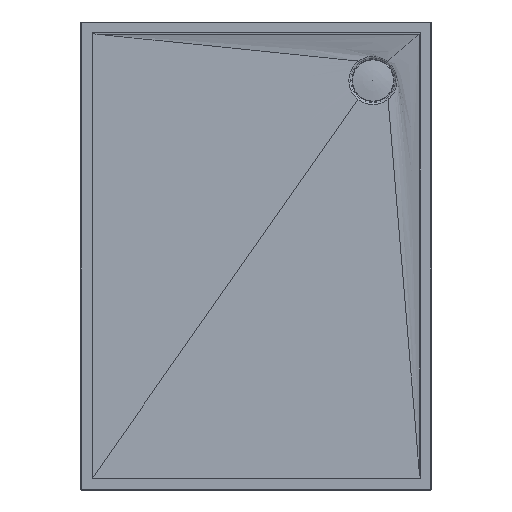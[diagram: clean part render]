
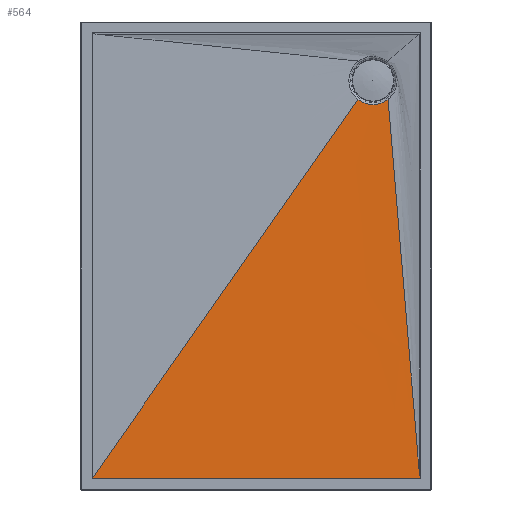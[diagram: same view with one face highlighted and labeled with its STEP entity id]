
A CAD part, top view. The second image highlights one B-rep face of the part: STEP entity #564.
In plain terms, the highlighted free-form (B-spline) face has degree [3, 3] with [7, 4] control points.
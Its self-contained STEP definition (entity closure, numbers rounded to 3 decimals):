
#25=B_SPLINE_CURVE_WITH_KNOTS('',3,(#947,#948,#949,#950,#951,#952,#953,
#954,#955,#956,#957,#958,#959,#960,#961,#962),.UNSPECIFIED.,.F.,.F.,(4,
3,3,3,3,4),(-0.056,-0.041,-0.03,
-0.02,-0.011,0.),.UNSPECIFIED.);
#29=B_SPLINE_CURVE_WITH_KNOTS('',3,(#1010,#1011,#1012,#1013,#1014,#1015,
#1016,#1017,#1018,#1019,#1020,#1021,#1022,#1023),.UNSPECIFIED.,.F.,.F.,
(4,2,2,2,2,2,4),(0.,0.012,0.029,0.059,
0.146,0.556,1.976),.UNSPECIFIED.);
#38=B_SPLINE_SURFACE_WITH_KNOTS('',3,3,((#1254,#1255,#1256,#1257),(#1258,
#1259,#1260,#1261),(#1262,#1263,#1264,#1265),(#1266,#1267,#1268,#1269),
(#1270,#1271,#1272,#1273),(#1274,#1275,#1276,#1277),(#1278,#1279,#1280,
#1281)),.UNSPECIFIED.,.F.,.F.,.F.,(4,1,1,1,4),(4,4),(-0.002,
0.284,0.571,0.714,1.),
(0.,1.),.UNSPECIFIED.);
#44=LINE('',#1076,#72);
#50=LINE('',#1093,#78);
#70=LINE('',#1253,#98);
#72=VECTOR('',#676,1186.842);
#78=VECTOR('',#690,10.);
#98=VECTOR('',#804,975.189);
#147=FACE_OUTER_BOUND('',#183,.T.);
#183=EDGE_LOOP('',(#518,#519,#520,#521,#522,#523));
#216=CIRCLE('',#632,61.89);
#239=VERTEX_POINT('',#941);
#240=VERTEX_POINT('',#946);
#243=VERTEX_POINT('',#1001);
#244=VERTEX_POINT('',#1009);
#245=VERTEX_POINT('',#1075);
#272=VERTEX_POINT('',#1161);
#296=EDGE_CURVE('',#239,#240,#25,.F.);
#300=EDGE_CURVE('',#243,#244,#29,.F.);
#303=EDGE_CURVE('',#245,#240,#44,.T.);
#312=EDGE_CURVE('',#244,#239,#50,.T.);
#346=EDGE_CURVE('',#272,#245,#216,.T.);
#359=EDGE_CURVE('',#272,#243,#70,.T.);
#518=ORIENTED_EDGE('',*,*,#346,.T.);
#519=ORIENTED_EDGE('',*,*,#303,.T.);
#520=ORIENTED_EDGE('',*,*,#296,.F.);
#521=ORIENTED_EDGE('',*,*,#312,.F.);
#522=ORIENTED_EDGE('',*,*,#300,.F.);
#523=ORIENTED_EDGE('',*,*,#359,.F.);
#564=ADVANCED_FACE('',(#147),#38,.T.);
#632=AXIS2_PLACEMENT_3D('',#1162,#773,#774);
#676=DIRECTION('',(-0.574,-0.819,0.013));
#690=DIRECTION('',(-1.,0.,0.));
#773=DIRECTION('center_axis',(0.,0.,-1.));
#774=DIRECTION('ref_axis',(-1.,0.,0.));
#804=DIRECTION('',(0.083,-0.996,0.015));
#941=CARTESIAN_POINT('',(6406.482,2067.469,30.081));
#946=CARTESIAN_POINT('',(6406.922,2067.782,30.076));
#947=CARTESIAN_POINT('Ctrl Pts',(6406.922,2067.782,30.076));
#948=CARTESIAN_POINT('Ctrl Pts',(6406.894,2067.742,30.077));
#949=CARTESIAN_POINT('Ctrl Pts',(6406.864,2067.703,30.078));
#950=CARTESIAN_POINT('Ctrl Pts',(6406.831,2067.666,30.078));
#951=CARTESIAN_POINT('Ctrl Pts',(6406.807,2067.638,30.079));
#952=CARTESIAN_POINT('Ctrl Pts',(6406.781,2067.612,30.079));
#953=CARTESIAN_POINT('Ctrl Pts',(6406.753,2067.587,30.079));
#954=CARTESIAN_POINT('Ctrl Pts',(6406.727,2067.565,30.08));
#955=CARTESIAN_POINT('Ctrl Pts',(6406.7,2067.544,30.08));
#956=CARTESIAN_POINT('Ctrl Pts',(6406.672,2067.527,30.08));
#957=CARTESIAN_POINT('Ctrl Pts',(6406.645,2067.511,30.081));
#958=CARTESIAN_POINT('Ctrl Pts',(6406.618,2067.497,30.081));
#959=CARTESIAN_POINT('Ctrl Pts',(6406.589,2067.487,30.081));
#960=CARTESIAN_POINT('Ctrl Pts',(6406.554,2067.475,30.081));
#961=CARTESIAN_POINT('Ctrl Pts',(6406.519,2067.469,30.081));
#962=CARTESIAN_POINT('Ctrl Pts',(6406.482,2067.469,30.081));
#1001=CARTESIAN_POINT('',(7244.972,2088.136,29.762));
#1009=CARTESIAN_POINT('',(7248.496,2067.469,30.081));
#1010=CARTESIAN_POINT('Ctrl Pts',(7248.496,2067.469,30.081));
#1011=CARTESIAN_POINT('Ctrl Pts',(7248.454,2067.469,30.081));
#1012=CARTESIAN_POINT('Ctrl Pts',(7248.414,2067.477,30.081));
#1013=CARTESIAN_POINT('Ctrl Pts',(7248.325,2067.512,30.081));
#1014=CARTESIAN_POINT('Ctrl Pts',(7248.279,2067.542,30.08));
#1015=CARTESIAN_POINT('Ctrl Pts',(7248.159,2067.643,30.079));
#1016=CARTESIAN_POINT('Ctrl Pts',(7248.09,2067.73,30.077));
#1017=CARTESIAN_POINT('Ctrl Pts',(7247.875,2068.054,30.072));
#1018=CARTESIAN_POINT('Ctrl Pts',(7247.741,2068.379,30.067));
#1019=CARTESIAN_POINT('Ctrl Pts',(7247.189,2069.913,30.044));
#1020=CARTESIAN_POINT('Ctrl Pts',(7246.818,2072.006,30.011));
#1021=CARTESIAN_POINT('Ctrl Pts',(7245.908,2077.662,29.924));
#1022=CARTESIAN_POINT('Ctrl Pts',(7245.334,2083.81,29.829));
#1023=CARTESIAN_POINT('Ctrl Pts',(7244.972,2088.136,29.762));
#1075=CARTESIAN_POINT('',(7088.035,3039.145,15.081));
#1076=CARTESIAN_POINT('',(7088.035,3039.145,15.081));
#1093=CARTESIAN_POINT('',(7246.702,2067.469,30.081));
#1161=CARTESIAN_POINT('',(7165.37,3039.145,15.081));
#1162=CARTESIAN_POINT('Origin',(7126.702,3087.469,15.081));
#1253=CARTESIAN_POINT('',(7165.37,3039.145,15.081));
#1254=CARTESIAN_POINT('Ctrl Pts',(7165.509,3039.256,15.081));
#1255=CARTESIAN_POINT('Ctrl Pts',(7193.171,2715.327,20.081));
#1256=CARTESIAN_POINT('Ctrl Pts',(7220.833,2391.398,25.081));
#1257=CARTESIAN_POINT('Ctrl Pts',(7248.496,2067.469,30.081));
#1258=CARTESIAN_POINT('Ctrl Pts',(7159.297,3034.256,15.081));
#1259=CARTESIAN_POINT('Ctrl Pts',(7162.298,2711.994,20.081));
#1260=CARTESIAN_POINT('Ctrl Pts',(7165.303,2389.73,25.081));
#1261=CARTESIAN_POINT('Ctrl Pts',(7168.304,2067.469,30.081));
#1262=CARTESIAN_POINT('Ctrl Pts',(7144.916,3026.687,15.081));
#1263=CARTESIAN_POINT('Ctrl Pts',(7099.251,2706.948,20.081));
#1264=CARTESIAN_POINT('Ctrl Pts',(7053.586,2387.208,25.081));
#1265=CARTESIAN_POINT('Ctrl Pts',(7007.92,2067.469,30.081));
#1266=CARTESIAN_POINT('Ctrl Pts',(7124.705,3024.709,15.081));
#1267=CARTESIAN_POINT('Ctrl Pts',(7018.95,2705.631,20.081));
#1268=CARTESIAN_POINT('Ctrl Pts',(6913.196,2386.547,25.081));
#1269=CARTESIAN_POINT('Ctrl Pts',(6807.441,2067.469,30.081));
#1270=CARTESIAN_POINT('Ctrl Pts',(7105.041,3028.536,15.081));
#1271=CARTESIAN_POINT('Ctrl Pts',(6939.015,2708.18,20.081));
#1272=CARTESIAN_POINT('Ctrl Pts',(6772.988,2387.824,25.081));
#1273=CARTESIAN_POINT('Ctrl Pts',(6606.962,2067.469,30.081));
#1274=CARTESIAN_POINT('Ctrl Pts',(7094.243,3034.174,15.081));
#1275=CARTESIAN_POINT('Ctrl Pts',(6891.721,2711.942,20.081));
#1276=CARTESIAN_POINT('Ctrl Pts',(6689.195,2389.7,25.081));
#1277=CARTESIAN_POINT('Ctrl Pts',(6486.674,2067.469,30.081));
#1278=CARTESIAN_POINT('Ctrl Pts',(7088.018,3039.158,15.081));
#1279=CARTESIAN_POINT('Ctrl Pts',(6860.839,2715.262,20.081));
#1280=CARTESIAN_POINT('Ctrl Pts',(6633.661,2391.365,25.081));
#1281=CARTESIAN_POINT('Ctrl Pts',(6406.482,2067.469,30.081));
